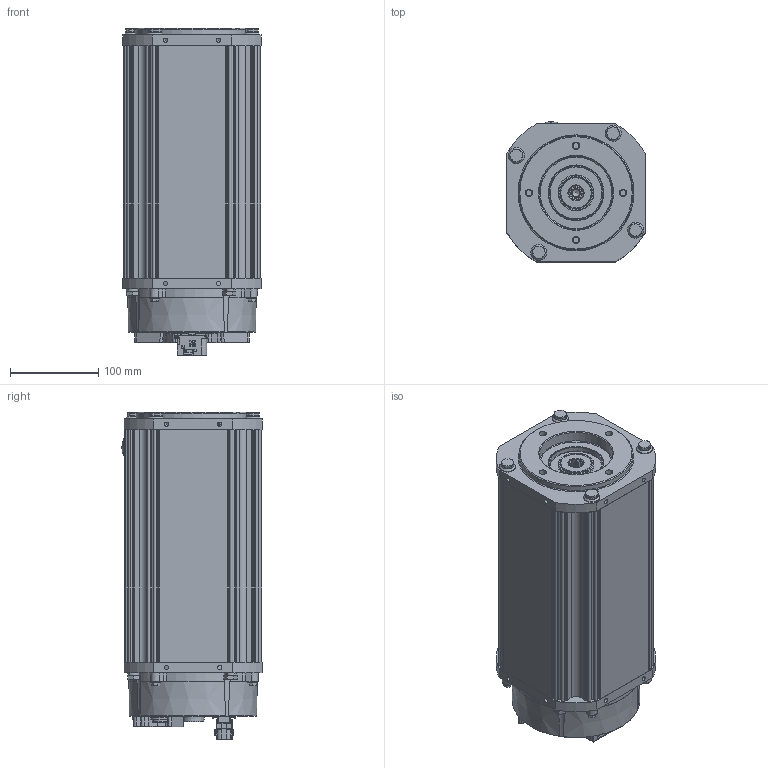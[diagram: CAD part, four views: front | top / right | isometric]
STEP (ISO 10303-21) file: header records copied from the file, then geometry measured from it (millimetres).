
FILE_DESCRIPTION(/* description */ (''),/* implementation_level */ '2;1');
FILE_NAME(/* name */ 'Q:\04-Moteurs\NX8 Low Voltage Mobile\11-Marketing\STEP\NX860M-SAEA.stp',/* time_stamp */ '2022-06-30T16:20:52+02:00',/* author */ ('522050'),/* organization */ (''),/* preprocessor_version */ 'ST-DEVELOPER v18.1',/* originating_system */ 'Autodesk Inventor 2020',/* authorisation */ '');
FILE_SCHEMA (('AUTOMOTIVE_DESIGN { 1 0 10303 214 3 1 1 }'));
Products named in the file (1): NX860M_2
Bounding box: 156 x 158.48 x 370.1 mm (x, y, z)
Volume: 6934897 mm3; surface area: 300862.9 mm2
Topology: 1 solids, 30 shells, 2002 faces, 5198 edges, 3336 vertices
Faces by surface type: plane 1000, cylinder 632, cone 156, torus 110, bspline 90, sphere 14
Full cylindrical faces by diameter (mm): 2 x6, 3.5 x1, 4.134 x4, 4.917 x19, 5 x4, 5.5 x4, 6 x1, 6.647 x8, 8 x8, 8.376 x5, 8.5 x8, 11.2 x4, 12 x1, 13 x4, 14.5 x1, 15 x1, 16 x1, 16.55 x1, 17 x5, 18 x6, 18.1 x2, 18.2 x4, 19 x1, 34.8 x1, 35 x1, 39.2 x1, 59.5 x1, 62 x2, 82.7 x1, 129 x1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
Entity records: 71677 total; most frequent: CARTESIAN_POINT 20343, DIRECTION 10356, ORIENTED_EDGE 10346, EDGE_CURVE 5173, AXIS2_PLACEMENT_3D 3763, VERTEX_POINT 3336, LINE 2830, VECTOR 2830
